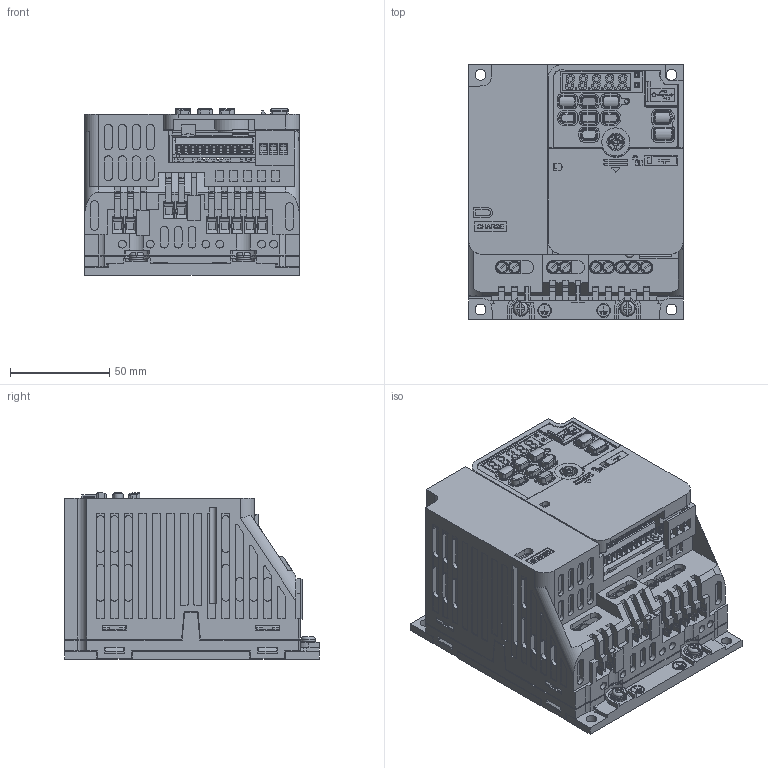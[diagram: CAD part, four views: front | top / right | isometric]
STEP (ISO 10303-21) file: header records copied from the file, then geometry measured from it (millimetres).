
FILE_DESCRIPTION((''),'2;1');
FILE_NAME('CIPR-GA50XB006AJXX_ASM','2020-01-20T',('vsetu'),('YASKAWA ELECTRIC CORCORATION'),'PRO/ENGINEER BY PARAMETRIC TECHNOLOGY CORPORATION, 2015110','PRO/ENGINEER BY PARAMETRIC TECHNOLOGY CORPORATION, 2015110','');
FILE_SCHEMA(('AUTOMOTIVE_DESIGN { 1 0 10303 214 1 1 1 1 }'));
Products named in the file (10): CIPR-GA50XB006_AJXX_BODY_1; CIPR-GA50_ALL_TB; CIPR-GA50_KEYPAD; CIPR-GA50_USB_COVER; CIPR-GA50_COMMON_1; CIPR-GA50_COMMON_2; CIPR-GA50_FP; CIPR-GA50_TERMINAL_COVER_2; CIPR-GA50_SCREW_GND_M4X8; CIPR-GA50XB006AJXX_ASM
Assembly tree (11 placements, depth 2):
  CIPR-GA50XB006AJXX_ASM
    CIPR-GA50XB006_AJXX_BODY_1
    CIPR-GA50_ALL_TB
    CIPR-GA50_KEYPAD
    CIPR-GA50_USB_COVER
    CIPR-GA50_COMMON_1
    CIPR-GA50_COMMON_2
    CIPR-GA50_FP
    CIPR-GA50_TERMINAL_COVER_2  x2
    CIPR-GA50_SCREW_GND_M4X8  x2
Bounding box: 108 x 128 x 83.75 mm (x, y, z)
Volume: 785724.8 mm3; surface area: 188234.3 mm2
Topology: 13 solids, 13 shells, 6425 faces, 17179 edges, 11270 vertices
Faces by surface type: plane 5036, cylinder 1276, torus 40, bspline 34, cone 31, sphere 8
Entity records: 245777 total; most frequent: CARTESIAN_POINT 38128, ORIENTED_EDGE 33988, DIRECTION 32062, EDGE_CURVE 16994, VECTOR 13894, LINE 13894, VERTEX_POINT 11154, AXIS2_PLACEMENT_3D 9084
